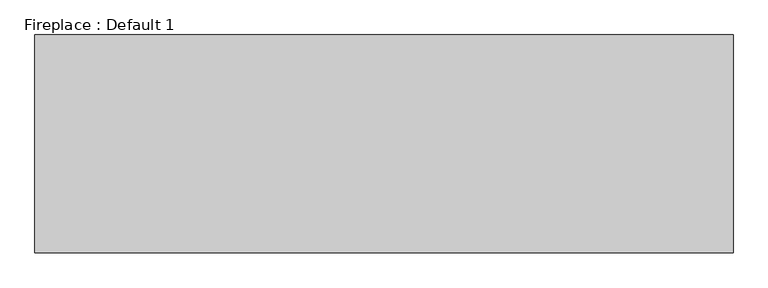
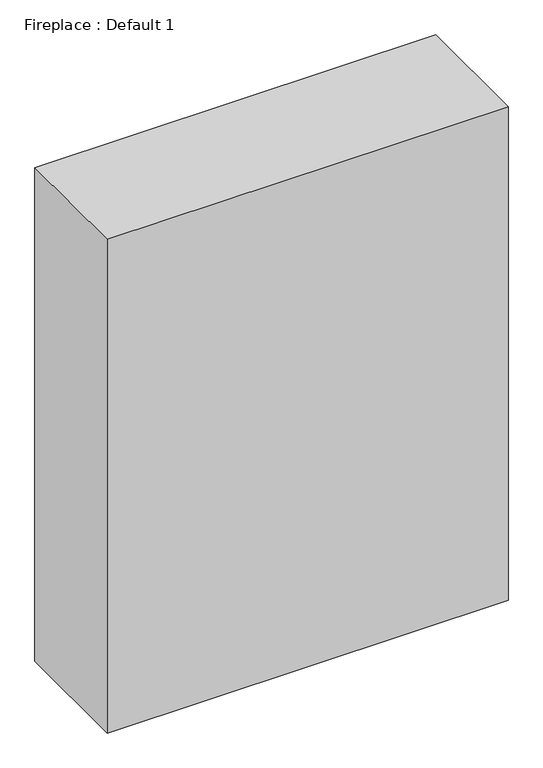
"""IFC4 building model written with IfcOpenShell, lengths in millimetres: proxy geometry, Fireplace : Default 1."""

from ifc_helpers import new_model, si_unit, origin, origin_with_axes, place, context, project, spatial, polyline, outline, extrude, source, transform, mapped, element, save


def fireplace_default_1_0e99d6f0(model_context):
    return source(origin(), model_context, "Body", "SweptSolid", [
        extrude(outline(polyline([(936.625, -100.0), (936.625, -684.2), (-936.625, -684.2), (-936.625, -100.0), (936.625, -100.0)])), origin_with_axes(), (0.0, 0.0, 1.0), 2438.4),
    ])


if __name__ == "__main__":
    model = new_model("IFC4")
    model_context = context("Model", 3, world=origin())
    ifc_project = project(units=[si_unit("LENGTHUNIT", "METRE", prefix="MILLI")], contexts=[model_context])
    site = spatial("IfcSite", under=ifc_project)
    building = spatial("IfcBuilding", under=site)
    placement = place(None, origin())
    fireplace_default_1_shape = fireplace_default_1_0e99d6f0(model_context)
    element("IfcBuildingElementProxy", 1, Name="Fireplace : Default 1", ObjectType="Fireplace : Default 1", at=placement, inside=building, context=model_context, shape_type="MappedRepresentation", body=[
        mapped(fireplace_default_1_shape, transform((0.0, 0.0, 0.0), x_axis=(1.0, 0.0, 0.0), y_axis=(0.0, 1.0, 0.0), z_axis=(0.0, 0.0, 1.0))),
    ])
    save(model, "model.ifc")
